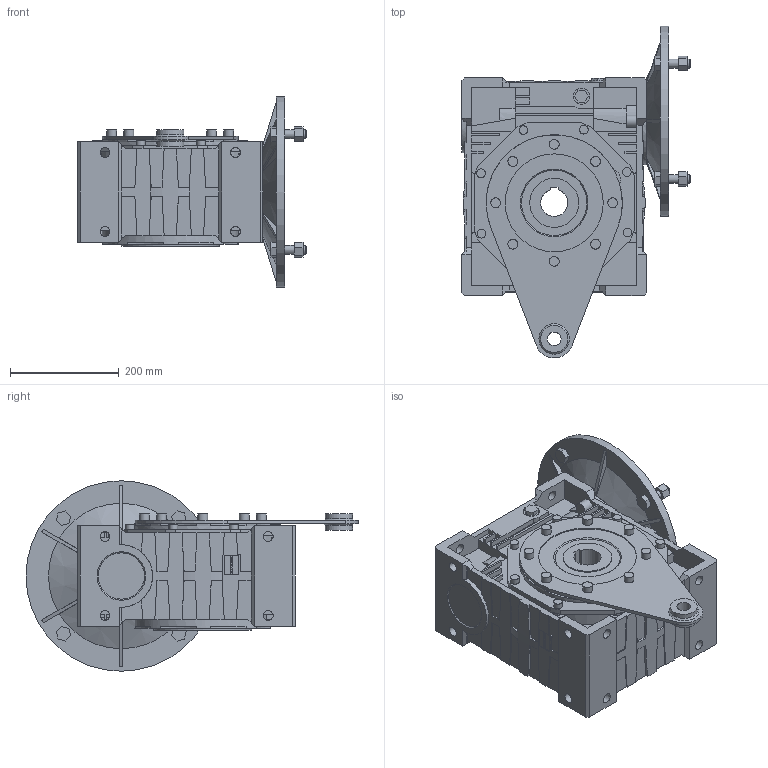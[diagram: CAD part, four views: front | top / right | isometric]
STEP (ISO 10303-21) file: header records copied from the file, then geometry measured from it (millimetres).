
FILE_DESCRIPTION(/* description */ ('STEP AP203'),/* implementation_level */ '2;1');
FILE_NAME(/* name */ 'NMRV1501555011100110NO---_---------------',/* time_stamp */ '2025-12-03T05:55:10+01:00',/* author */ ('License CC BY-ND 4.0'),/* organization */ ('CADENAS'),/* preprocessor_version */ 'ST-DEVELOPER v20',/* originating_system */ 'PARTsolutions',/* authorisation */ ' ');
FILE_SCHEMA (('CONFIG_CONTROL_DESIGN'));
Length unit declared in the file: millimetre
Products named in the file (6): NMRV1501555011100110NO---(---------------); Gear unit 150; 150-50 (200)alc-n; 150-250; VB 150-42 (42); 150-160 B5
Assembly tree (5 placements, depth 2):
  NMRV1501555011100110NO---(---------------)
    Gear unit 150
    150-50 (200)alc-n
    150-250
    VB 150-42 (42)
    150-160 B5
Bounding box: 420 x 610 x 350 mm (x, y, z)
Volume: 22461697.4 mm3; surface area: 1314627.8 mm2
Topology: 5 solids, 5 shells, 876 faces, 2331 edges, 1538 vertices
Faces by surface type: plane 650, cylinder 166, cone 58, torus 2
Full cylindrical faces by diameter (mm): 3.74 x3, 10.106 x16, 16 x16, 18 x26, 25 x1, 26 x1, 30 x4, 50 x2, 59 x1, 60 x1, 75 x1, 80 x1, 81 x1, 90 x2, 100 x1, 180 x3, 244 x1, 250 x2, 350 x1
Entity records: 26330 total; most frequent: CARTESIAN_POINT 4681, DIRECTION 4382, ORIENTED_EDGE 4314, EDGE_CURVE 2157, LINE 1612, VECTOR 1612, VERTEX_POINT 1512, AXIS2_PLACEMENT_3D 1385
